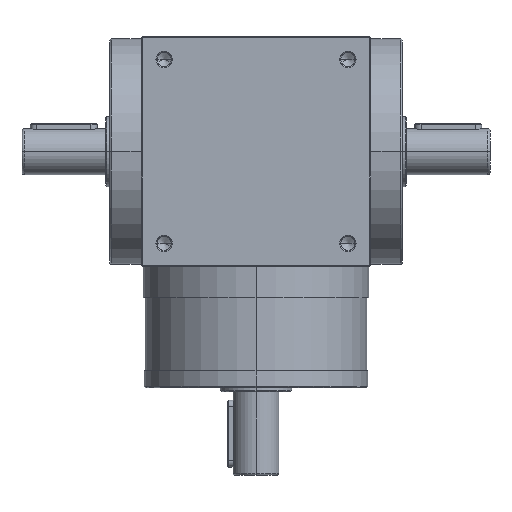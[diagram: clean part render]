
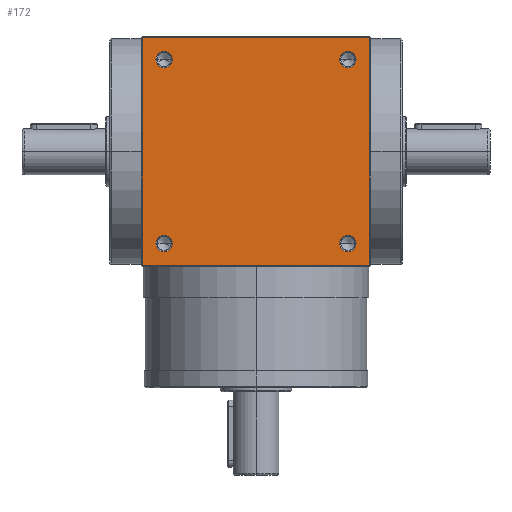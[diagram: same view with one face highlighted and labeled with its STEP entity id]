
A CAD part, top view. The second image highlights one B-rep face of the part: STEP entity #172.
In plain terms, the highlighted planar face has unit normal (0, 0, 1).
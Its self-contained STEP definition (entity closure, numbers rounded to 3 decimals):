
#11 = ORIENTED_EDGE ( 'NONE', *, *, #2467, .T. ) ;
#28 = DIRECTION ( 'NONE',  ( 0., 0., -1. ) ) ;
#172 = ADVANCED_FACE ( 'NONE', ( #2035, #1513, #3391, #1899, #1022 ), #2493, .F. ) ;
#254 = LINE ( 'NONE', #8888, #9951 ) ;
#457 = VERTEX_POINT ( 'NONE', #1755 ) ;
#500 = LINE ( 'NONE', #1284, #8451 ) ;
#503 = DIRECTION ( 'NONE',  ( -1., 0., 0. ) ) ;
#522 = CARTESIAN_POINT ( 'NONE',  ( -44., -44., 55. ) ) ;
#632 = DIRECTION ( 'NONE',  ( 0., 0., -1. ) ) ;
#640 = EDGE_CURVE ( 'NONE', #3010, #9612, #10193, .T. ) ;
#714 = EDGE_CURVE ( 'NONE', #1623, #8118, #9942, .T. ) ;
#753 = VERTEX_POINT ( 'NONE', #6887 ) ;
#789 = EDGE_CURVE ( 'NONE', #8118, #1623, #5774, .T. ) ;
#820 = AXIS2_PLACEMENT_3D ( 'NONE', #5564, #28, #5675 ) ;
#987 = ORIENTED_EDGE ( 'NONE', *, *, #10175, .T. ) ;
#1022 = FACE_BOUND ( 'NONE', #9571, .T. ) ;
#1284 = CARTESIAN_POINT ( 'NONE',  ( -54.5, 0., 55. ) ) ;
#1513 = FACE_BOUND ( 'NONE', #6504, .T. ) ;
#1623 = VERTEX_POINT ( 'NONE', #8553 ) ;
#1745 = CARTESIAN_POINT ( 'NONE',  ( 54.5, 0., 55. ) ) ;
#1755 = CARTESIAN_POINT ( 'NONE',  ( 47.9, -44., 55. ) ) ;
#1899 = FACE_BOUND ( 'NONE', #7439, .T. ) ;
#2033 = CARTESIAN_POINT ( 'NONE',  ( 0., 54.5, 55. ) ) ;
#2035 = FACE_OUTER_BOUND ( 'NONE', #6700, .T. ) ;
#2099 = CARTESIAN_POINT ( 'NONE',  ( 44., -44., 55. ) ) ;
#2126 = CIRCLE ( 'NONE', #2582, 3.9 ) ;
#2166 = CARTESIAN_POINT ( 'NONE',  ( -44., -44., 55. ) ) ;
#2177 = DIRECTION ( 'NONE',  ( -1., 0., 0. ) ) ;
#2182 = DIRECTION ( 'NONE',  ( -1., 0., 0. ) ) ;
#2237 = AXIS2_PLACEMENT_3D ( 'NONE', #10011, #5299, #503 ) ;
#2255 = DIRECTION ( 'NONE',  ( -1., 0., 0. ) ) ;
#2329 = EDGE_CURVE ( 'NONE', #6238, #7692, #6865, .T. ) ;
#2335 = AXIS2_PLACEMENT_3D ( 'NONE', #4775, #3135, #5601 ) ;
#2415 = VERTEX_POINT ( 'NONE', #9583 ) ;
#2467 = EDGE_CURVE ( 'NONE', #9809, #6238, #254, .T. ) ;
#2472 = AXIS2_PLACEMENT_3D ( 'NONE', #5772, #2617, #7374 ) ;
#2493 = PLANE ( 'NONE',  #820 ) ;
#2582 = AXIS2_PLACEMENT_3D ( 'NONE', #4230, #9752, #3393 ) ;
#2617 = DIRECTION ( 'NONE',  ( 0., 0., -1. ) ) ;
#2731 = ORIENTED_EDGE ( 'NONE', *, *, #9867, .T. ) ;
#2842 = DIRECTION ( 'NONE',  ( 0., 1., 0. ) ) ;
#3010 = VERTEX_POINT ( 'NONE', #6668 ) ;
#3115 = VECTOR ( 'NONE', #5191, 1000. ) ;
#3135 = DIRECTION ( 'NONE',  ( 0., 0., -1. ) ) ;
#3263 = CIRCLE ( 'NONE', #2472, 3.9 ) ;
#3391 = FACE_BOUND ( 'NONE', #9818, .T. ) ;
#3393 = DIRECTION ( 'NONE',  ( -1., 0., 0. ) ) ;
#3560 = EDGE_CURVE ( 'NONE', #9612, #3010, #3263, .T. ) ;
#3654 = VECTOR ( 'NONE', #2842, 1000. ) ;
#3755 = EDGE_CURVE ( 'NONE', #5711, #9809, #500, .T. ) ;
#3777 = DIRECTION ( 'NONE',  ( 0., -1., 0. ) ) ;
#4194 = CIRCLE ( 'NONE', #4486, 3.9 ) ;
#4230 = CARTESIAN_POINT ( 'NONE',  ( -44., 44., 55. ) ) ;
#4257 = ORIENTED_EDGE ( 'NONE', *, *, #714, .T. ) ;
#4280 = CIRCLE ( 'NONE', #2335, 3.9 ) ;
#4475 = CIRCLE ( 'NONE', #7382, 3.9 ) ;
#4476 = CARTESIAN_POINT ( 'NONE',  ( -54.5, 54.5, 55. ) ) ;
#4486 = AXIS2_PLACEMENT_3D ( 'NONE', #4694, #632, #2255 ) ;
#4545 = EDGE_CURVE ( 'NONE', #2415, #457, #4475, .T. ) ;
#4694 = CARTESIAN_POINT ( 'NONE',  ( -44., 44., 55. ) ) ;
#4775 = CARTESIAN_POINT ( 'NONE',  ( 44., -44., 55. ) ) ;
#4852 = CARTESIAN_POINT ( 'NONE',  ( -47.9, 44., 55. ) ) ;
#5191 = DIRECTION ( 'NONE',  ( -1., 0., 0. ) ) ;
#5299 = DIRECTION ( 'NONE',  ( 0., 0., -1. ) ) ;
#5332 = DIRECTION ( 'NONE',  ( -1., 0., 0. ) ) ;
#5564 = CARTESIAN_POINT ( 'NONE',  ( 0., 0., 55. ) ) ;
#5601 = DIRECTION ( 'NONE',  ( -1., 0., 0. ) ) ;
#5675 = DIRECTION ( 'NONE',  ( -1., 0., 0. ) ) ;
#5711 = VERTEX_POINT ( 'NONE', #4476 ) ;
#5740 = EDGE_CURVE ( 'NONE', #9724, #753, #4194, .T. ) ;
#5772 = CARTESIAN_POINT ( 'NONE',  ( 44., 44., 55. ) ) ;
#5774 = CIRCLE ( 'NONE', #8189, 3.9 ) ;
#5886 = ORIENTED_EDGE ( 'NONE', *, *, #3755, .T. ) ;
#6234 = LINE ( 'NONE', #2033, #3115 ) ;
#6238 = VERTEX_POINT ( 'NONE', #8981 ) ;
#6501 = ORIENTED_EDGE ( 'NONE', *, *, #2329, .T. ) ;
#6504 = EDGE_LOOP ( 'NONE', ( #7339, #7094 ) ) ;
#6668 = CARTESIAN_POINT ( 'NONE',  ( 47.9, 44., 55. ) ) ;
#6700 = EDGE_LOOP ( 'NONE', ( #5886, #11, #6501, #987 ) ) ;
#6865 = LINE ( 'NONE', #1745, #3654 ) ;
#6887 = CARTESIAN_POINT ( 'NONE',  ( -40.1, 44., 55. ) ) ;
#6908 = DIRECTION ( 'NONE',  ( 0., 0., -1. ) ) ;
#6917 = DIRECTION ( 'NONE',  ( 0., 0., -1. ) ) ;
#7094 = ORIENTED_EDGE ( 'NONE', *, *, #4545, .T. ) ;
#7104 = EDGE_CURVE ( 'NONE', #457, #2415, #4280, .T. ) ;
#7155 = AXIS2_PLACEMENT_3D ( 'NONE', #2166, #6908, #5332 ) ;
#7339 = ORIENTED_EDGE ( 'NONE', *, *, #7104, .T. ) ;
#7374 = DIRECTION ( 'NONE',  ( -1., 0., 0. ) ) ;
#7382 = AXIS2_PLACEMENT_3D ( 'NONE', #2099, #7765, #2177 ) ;
#7439 = EDGE_LOOP ( 'NONE', ( #7460, #7591 ) ) ;
#7460 = ORIENTED_EDGE ( 'NONE', *, *, #640, .T. ) ;
#7591 = ORIENTED_EDGE ( 'NONE', *, *, #3560, .T. ) ;
#7692 = VERTEX_POINT ( 'NONE', #7763 ) ;
#7763 = CARTESIAN_POINT ( 'NONE',  ( 54.5, 54.5, 55. ) ) ;
#7765 = DIRECTION ( 'NONE',  ( 0., 0., -1. ) ) ;
#7798 = ORIENTED_EDGE ( 'NONE', *, *, #5740, .T. ) ;
#7909 = CARTESIAN_POINT ( 'NONE',  ( 40.1, 44., 55. ) ) ;
#8054 = DIRECTION ( 'NONE',  ( 1., 0., 0. ) ) ;
#8118 = VERTEX_POINT ( 'NONE', #9537 ) ;
#8158 = ORIENTED_EDGE ( 'NONE', *, *, #789, .T. ) ;
#8189 = AXIS2_PLACEMENT_3D ( 'NONE', #522, #6917, #2182 ) ;
#8451 = VECTOR ( 'NONE', #3777, 1000. ) ;
#8553 = CARTESIAN_POINT ( 'NONE',  ( -40.1, -44., 55. ) ) ;
#8888 = CARTESIAN_POINT ( 'NONE',  ( 0., -54.5, 55. ) ) ;
#8981 = CARTESIAN_POINT ( 'NONE',  ( 54.5, -54.5, 55. ) ) ;
#9537 = CARTESIAN_POINT ( 'NONE',  ( -47.9, -44., 55. ) ) ;
#9571 = EDGE_LOOP ( 'NONE', ( #2731, #7798 ) ) ;
#9583 = CARTESIAN_POINT ( 'NONE',  ( 40.1, -44., 55. ) ) ;
#9612 = VERTEX_POINT ( 'NONE', #7909 ) ;
#9724 = VERTEX_POINT ( 'NONE', #4852 ) ;
#9752 = DIRECTION ( 'NONE',  ( 0., 0., -1. ) ) ;
#9809 = VERTEX_POINT ( 'NONE', #9822 ) ;
#9818 = EDGE_LOOP ( 'NONE', ( #4257, #8158 ) ) ;
#9822 = CARTESIAN_POINT ( 'NONE',  ( -54.5, -54.5, 55. ) ) ;
#9867 = EDGE_CURVE ( 'NONE', #753, #9724, #2126, .T. ) ;
#9942 = CIRCLE ( 'NONE', #7155, 3.9 ) ;
#9951 = VECTOR ( 'NONE', #8054, 1000. ) ;
#10011 = CARTESIAN_POINT ( 'NONE',  ( 44., 44., 55. ) ) ;
#10175 = EDGE_CURVE ( 'NONE', #7692, #5711, #6234, .T. ) ;
#10193 = CIRCLE ( 'NONE', #2237, 3.9 ) ;
